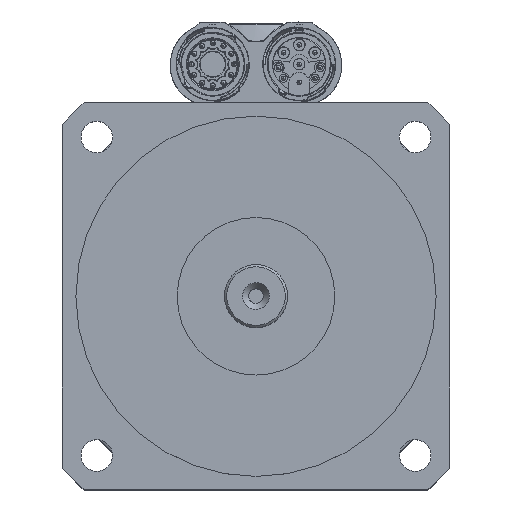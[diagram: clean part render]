
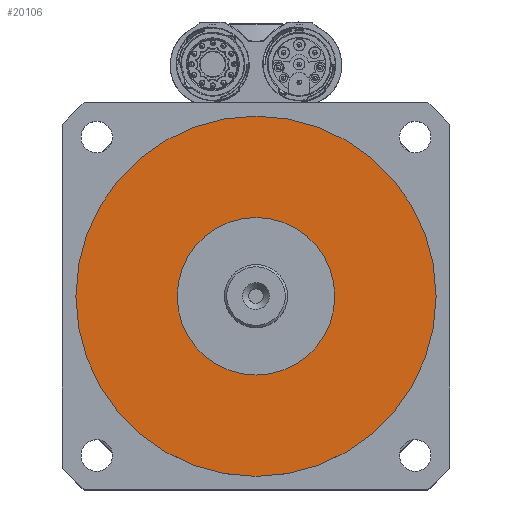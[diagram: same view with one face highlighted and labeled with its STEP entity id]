
A CAD part, top view. The second image highlights one B-rep face of the part: STEP entity #20106.
In plain terms, the highlighted planar face has unit normal (0, 0, 1).
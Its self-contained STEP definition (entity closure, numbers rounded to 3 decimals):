
#1343=CIRCLE('',#21481,17.5);
#1344=CIRCLE('',#21484,40.);
#3170=VERTEX_POINT('',#28748);
#3171=VERTEX_POINT('',#28752);
#7526=EDGE_CURVE('',#3170,#3170,#1343,.T.);
#7527=EDGE_CURVE('',#3171,#3171,#1344,.T.);
#10724=ORIENTED_EDGE('',*,*,#7527,.F.);
#10725=ORIENTED_EDGE('',*,*,#7526,.T.);
#16930=EDGE_LOOP('',(#10724));
#16931=EDGE_LOOP('',(#10725));
#18524=FACE_BOUND('',#16930,.T.);
#18525=FACE_BOUND('',#16931,.T.);
#20106=ADVANCED_FACE('',(#18524,#18525),#69777,.F.);
#21481=AXIS2_PLACEMENT_3D('',#28747,#23587,#23588);
#21484=AXIS2_PLACEMENT_3D('',#28751,#23592,#23593);
#21486=AXIS2_PLACEMENT_3D('',#28755,#23596,$);
#23587=DIRECTION('',(0.,0.,-1.));
#23588=DIRECTION('',(-17.5,0.,0.));
#23592=DIRECTION('',(0.,0.,-1.));
#23593=DIRECTION('',(-40.,0.,0.));
#23596=DIRECTION('',(0.,0.,-1.));
#28747=CARTESIAN_POINT('',(0.,0.,177.));
#28748=CARTESIAN_POINT('',(17.5,0.,177.));
#28751=CARTESIAN_POINT('',(0.,0.,177.));
#28752=CARTESIAN_POINT('',(40.,0.,177.));
#28755=CARTESIAN_POINT('',(0.,0.,177.));
#69777=PLANE('',#21486);
